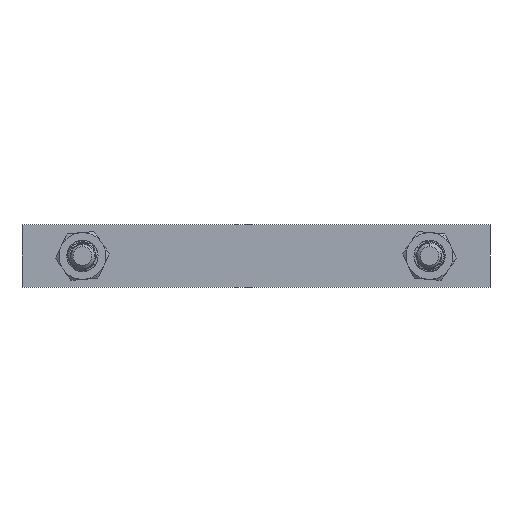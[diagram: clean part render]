
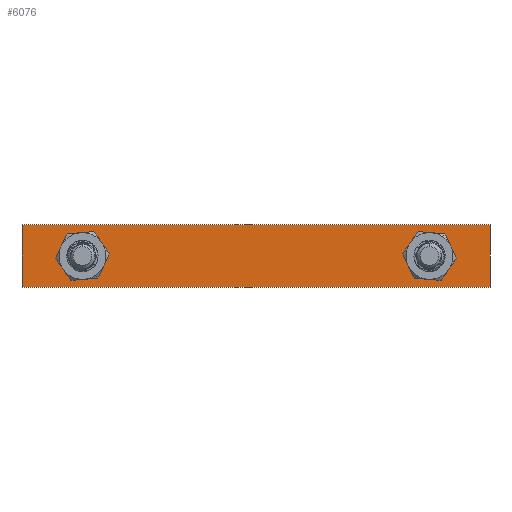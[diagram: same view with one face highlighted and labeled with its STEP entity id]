
A CAD part, front view. The second image highlights one B-rep face of the part: STEP entity #6076.
In plain terms, the highlighted planar face has unit normal (0, -1, 0).
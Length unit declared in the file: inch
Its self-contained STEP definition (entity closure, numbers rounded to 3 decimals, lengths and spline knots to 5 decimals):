
#39 = CARTESIAN_POINT ( 'NONE',  ( 0., 0.05, -0.49749 ) ) ;
#178 = LINE ( 'NONE', #11497, #17654 ) ;
#404 = CIRCLE ( 'NONE', #10604, 0.3125 ) ;
#763 = LINE ( 'NONE', #1876, #2414 ) ;
#998 = DIRECTION ( 'NONE',  ( 0., 1., 0. ) ) ;
#1815 = EDGE_CURVE ( 'Edge12', #17159, #1858, #12689, .T. ) ;
#1858 = VERTEX_POINT ( 'NONE', #8948 ) ;
#1876 = CARTESIAN_POINT ( 'NONE',  ( 0., 0.05, 0. ) ) ;
#2198 = EDGE_CURVE ( 'NONE', #3334, #8311, #178, .T. ) ;
#2245 = VECTOR ( 'NONE', #14193, 39.37008 ) ;
#2414 = VECTOR ( 'NONE', #16107, 39.37008 ) ;
#2444 = DIRECTION ( 'NONE',  ( 0., 0., -1. ) ) ;
#2916 = DIRECTION ( 'NONE',  ( 0., -1., 0. ) ) ;
#3037 = CARTESIAN_POINT ( 'NONE',  ( 7.5, 0.05, 0.49749 ) ) ;
#3094 = AXIS2_PLACEMENT_3D ( 'NONE', #16345, #5029, #5207 ) ;
#3334 = VERTEX_POINT ( 'NONE', #3037 ) ;
#3439 = ORIENTED_EDGE ( 'NONE', *, *, #7190, .T. ) ;
#4115 = EDGE_CURVE ( 'Edge7', #12006, #11585, #5741, .T. ) ;
#4306 = VERTEX_POINT ( 'NONE', #5372 ) ;
#4556 = DIRECTION ( 'NONE',  ( -1., 0., 0. ) ) ;
#4635 = CARTESIAN_POINT ( 'NONE',  ( 0., 0.05, 0. ) ) ;
#4842 = DIRECTION ( 'NONE',  ( 0., 0., -1. ) ) ;
#5029 = DIRECTION ( 'NONE',  ( 0., 1., 0. ) ) ;
#5207 = DIRECTION ( 'NONE',  ( 0., 0., -1. ) ) ;
#5338 = ORIENTED_EDGE ( 'NONE', *, *, #12201, .T. ) ;
#5372 = CARTESIAN_POINT ( 'NONE',  ( 7.5, 0.05, -0.49749 ) ) ;
#5721 = FACE_OUTER_BOUND ( 'NONE', #12775, .T. ) ;
#5741 = CIRCLE ( 'NONE', #15376, 0.3125 ) ;
#6076 = ADVANCED_FACE ( 'Face6', ( #11572, #5721, #17146 ), #9838, .T. ) ;
#6281 = CARTESIAN_POINT ( 'NONE',  ( 0.96875, 0.05, 0. ) ) ;
#7190 = EDGE_CURVE ( 'Edge12', #1858, #17159, #404, .T. ) ;
#7338 = LINE ( 'NONE', #15748, #2245 ) ;
#7511 = ORIENTED_EDGE ( 'NONE', *, *, #7915, .T. ) ;
#7517 = CARTESIAN_POINT ( 'NONE',  ( 0., 0.05, 0.49749 ) ) ;
#7825 = DIRECTION ( 'NONE',  ( 0., 1., 0. ) ) ;
#7915 = EDGE_CURVE ( 'Edge13', #12602, #4306, #7338, .T. ) ;
#7920 = DIRECTION ( 'NONE',  ( 0., 0., 1. ) ) ;
#7989 = ORIENTED_EDGE ( 'NONE', *, *, #13453, .T. ) ;
#8311 = VERTEX_POINT ( 'NONE', #7517 ) ;
#8391 = DIRECTION ( 'NONE',  ( 0., 0., -1. ) ) ;
#8948 = CARTESIAN_POINT ( 'NONE',  ( 0.96875, 0.05, -0.3125 ) ) ;
#9303 = DIRECTION ( 'NONE',  ( 0., 0., 1. ) ) ;
#9366 = LINE ( 'NONE', #14938, #14317 ) ;
#9601 = AXIS2_PLACEMENT_3D ( 'NONE', #12137, #998, #9303 ) ;
#9647 = EDGE_CURVE ( 'Edge10', #3334, #4306, #9366, .T. ) ;
#9838 = PLANE ( 'NONE',  #15267 ) ;
#10604 = AXIS2_PLACEMENT_3D ( 'NONE', #6281, #16149, #4842 ) ;
#10775 = CIRCLE ( 'NONE', #9601, 0.3125 ) ;
#11497 = CARTESIAN_POINT ( 'NONE',  ( 7.5, 0.05, 0.49749 ) ) ;
#11572 = FACE_BOUND ( 'NONE', #16200, .T. ) ;
#11585 = VERTEX_POINT ( 'NONE', #15613 ) ;
#11690 = ORIENTED_EDGE ( 'NONE', *, *, #4115, .T. ) ;
#11779 = ORIENTED_EDGE ( 'NONE', *, *, #1815, .T. ) ;
#12006 = VERTEX_POINT ( 'NONE', #16943 ) ;
#12137 = CARTESIAN_POINT ( 'NONE',  ( 6.53125, 0.05, 0. ) ) ;
#12201 = EDGE_CURVE ( 'Edge6', #8311, #12602, #763, .T. ) ;
#12602 = VERTEX_POINT ( 'NONE', #39 ) ;
#12689 = CIRCLE ( 'NONE', #3094, 0.3125 ) ;
#12775 = EDGE_LOOP ( 'NONE', ( #16856, #5338, #7511, #13404 ) ) ;
#13404 = ORIENTED_EDGE ( 'NONE', *, *, #9647, .F. ) ;
#13453 = EDGE_CURVE ( 'Edge7', #11585, #12006, #10775, .T. ) ;
#13456 = EDGE_LOOP ( 'NONE', ( #3439, #11779 ) ) ;
#14193 = DIRECTION ( 'NONE',  ( 1., 0., 0. ) ) ;
#14317 = VECTOR ( 'NONE', #2444, 39.37008 ) ;
#14938 = CARTESIAN_POINT ( 'NONE',  ( 7.5, 0.05, 0.875 ) ) ;
#15267 = AXIS2_PLACEMENT_3D ( 'NONE', #4635, #2916, #8391 ) ;
#15376 = AXIS2_PLACEMENT_3D ( 'NONE', #17342, #7825, #7920 ) ;
#15613 = CARTESIAN_POINT ( 'NONE',  ( 6.53125, 0.05, 0.3125 ) ) ;
#15748 = CARTESIAN_POINT ( 'NONE',  ( 7.5, 0.05, -0.49749 ) ) ;
#16107 = DIRECTION ( 'NONE',  ( 0., 0., -1. ) ) ;
#16149 = DIRECTION ( 'NONE',  ( 0., 1., 0. ) ) ;
#16200 = EDGE_LOOP ( 'NONE', ( #11690, #7989 ) ) ;
#16345 = CARTESIAN_POINT ( 'NONE',  ( 0.96875, 0.05, 0. ) ) ;
#16856 = ORIENTED_EDGE ( 'NONE', *, *, #2198, .T. ) ;
#16943 = CARTESIAN_POINT ( 'NONE',  ( 6.53125, 0.05, -0.3125 ) ) ;
#17025 = CARTESIAN_POINT ( 'NONE',  ( 0.96875, 0.05, 0.3125 ) ) ;
#17146 = FACE_BOUND ( 'NONE', #13456, .T. ) ;
#17159 = VERTEX_POINT ( 'NONE', #17025 ) ;
#17342 = CARTESIAN_POINT ( 'NONE',  ( 6.53125, 0.05, 0. ) ) ;
#17654 = VECTOR ( 'NONE', #4556, 39.37008 ) ;
